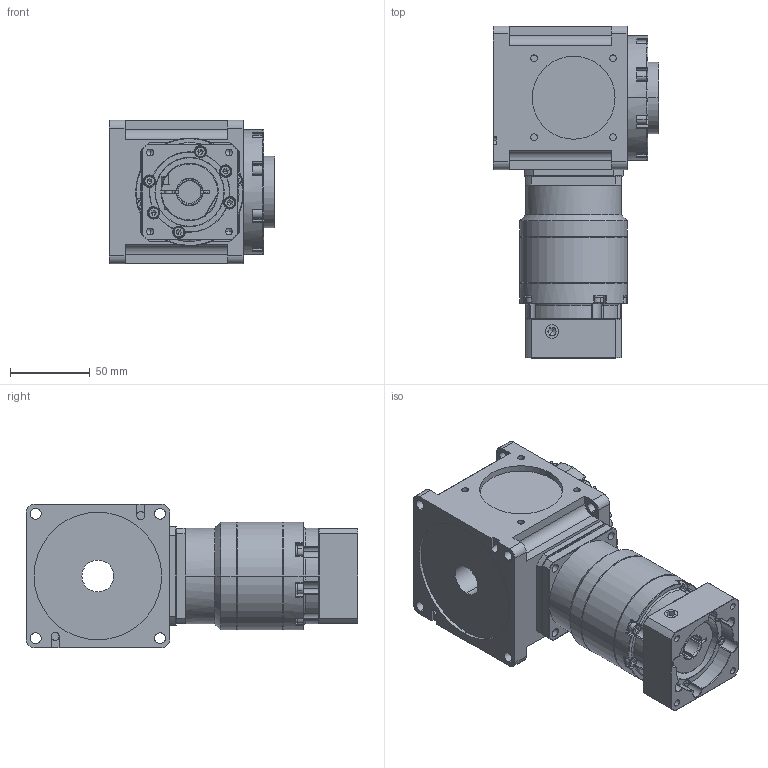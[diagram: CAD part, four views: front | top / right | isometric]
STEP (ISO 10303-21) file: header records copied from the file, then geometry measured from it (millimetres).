
FILE_DESCRIPTION (( 'STEP AP214' ), '1' );
FILE_NAME ('CCW090A-L2(24-200)-FR 14-50-70-M5.STEP', '2025-06-03T02:53:25', ( '微软用户' ), ( '微软中国' ), 'SwSTEP 2.0', 'SolidWorks 2024', '' );
FILE_SCHEMA (( 'AUTOMOTIVE_DESIGN' ));
Length unit declared in the file: millimetre
Products named in the file (3): VRB-060-L2-S2-P1 14-50-70-M5; CCW090A-002-FR箱体; CCW090A-L2(24-200)-FR 14-50-70-M5
Assembly tree (2 placements, depth 2):
  CCW090A-L2(24-200)-FR 14-50-70-M5
    CCW090A-002-FR箱体
    VRB-060-L2-S2-P1 14-50-70-M5
Bounding box: 104 x 208 x 90 mm (x, y, z)
Volume: 922816.2 mm3; surface area: 150485.4 mm2
Topology: 34 solids, 34 shells, 1485 faces, 3625 edges, 2257 vertices
Faces by surface type: cylinder 570, plane 570, cone 234, torus 79, sphere 20, bspline 12
Entity records: 44563 total; most frequent: CARTESIAN_POINT 8673, DIRECTION 7922, ORIENTED_EDGE 7102, EDGE_CURVE 3551, AXIS2_PLACEMENT_3D 3131, VERTEX_POINT 2249, EDGE_LOOP 1664, VECTOR 1660
